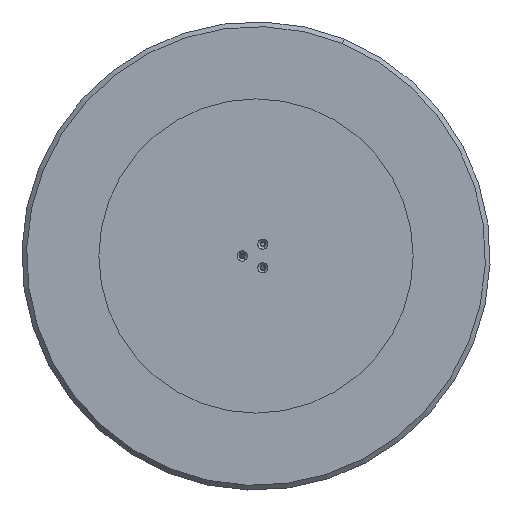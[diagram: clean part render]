
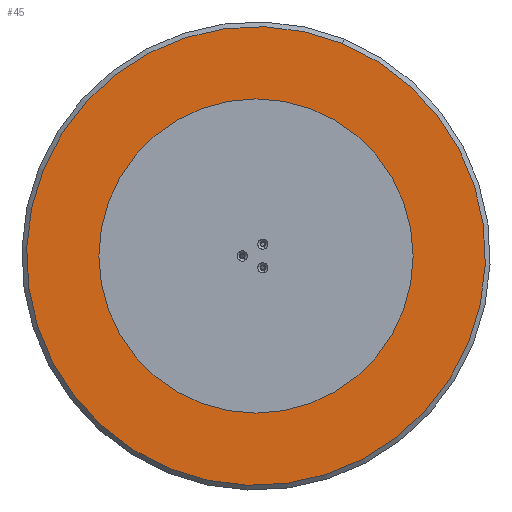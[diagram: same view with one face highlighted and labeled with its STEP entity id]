
A CAD part, front view. The second image highlights one B-rep face of the part: STEP entity #45.
In plain terms, the highlighted planar face has unit normal (0, -1, 0).
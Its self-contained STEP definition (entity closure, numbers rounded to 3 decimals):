
#45 = ADVANCED_FACE ( 'NONE', ( #5660 ), #6176, .T. ) ;
#253 = DIRECTION ( 'NONE',  ( 0., -1., 0. ) ) ;
#705 = ORIENTED_EDGE ( 'NONE', *, *, #6637, .T. ) ;
#1386 = EDGE_LOOP ( 'NONE', ( #2050, #705 ) ) ;
#1515 = AXIS2_PLACEMENT_3D ( 'NONE', #2338, #253, #2373 ) ;
#1671 = DIRECTION ( 'NONE',  ( 0., 0., -1. ) ) ;
#2042 = CARTESIAN_POINT ( 'NONE',  ( 0., 0., 0. ) ) ;
#2045 = AXIS2_PLACEMENT_3D ( 'NONE', #6141, #2073, #2541 ) ;
#2050 = ORIENTED_EDGE ( 'NONE', *, *, #2749, .T. ) ;
#2073 = DIRECTION ( 'NONE',  ( 0., -1., 0. ) ) ;
#2150 = CIRCLE ( 'NONE', #2045, 387. ) ;
#2338 = CARTESIAN_POINT ( 'NONE',  ( 0., 0., 0. ) ) ;
#2373 = DIRECTION ( 'NONE',  ( 0., 0., -1. ) ) ;
#2426 = AXIS2_PLACEMENT_3D ( 'NONE', #2042, #3147, #1671 ) ;
#2541 = DIRECTION ( 'NONE',  ( 0., 0., -1. ) ) ;
#2749 = EDGE_CURVE ( 'NONE', #4906, #2768, #5044, .T. ) ;
#2768 = VERTEX_POINT ( 'NONE', #5933 ) ;
#3147 = DIRECTION ( 'NONE',  ( 0., -1., 0. ) ) ;
#4906 = VERTEX_POINT ( 'NONE', #5860 ) ;
#5044 = CIRCLE ( 'NONE', #1515, 387. ) ;
#5660 = FACE_OUTER_BOUND ( 'NONE', #1386, .T. ) ;
#5860 = CARTESIAN_POINT ( 'NONE',  ( 0., 0., 387. ) ) ;
#5933 = CARTESIAN_POINT ( 'NONE',  ( 0., 0., -387. ) ) ;
#6141 = CARTESIAN_POINT ( 'NONE',  ( 0., 0., 0. ) ) ;
#6176 = PLANE ( 'NONE',  #2426 ) ;
#6637 = EDGE_CURVE ( 'NONE', #2768, #4906, #2150, .T. ) ;
